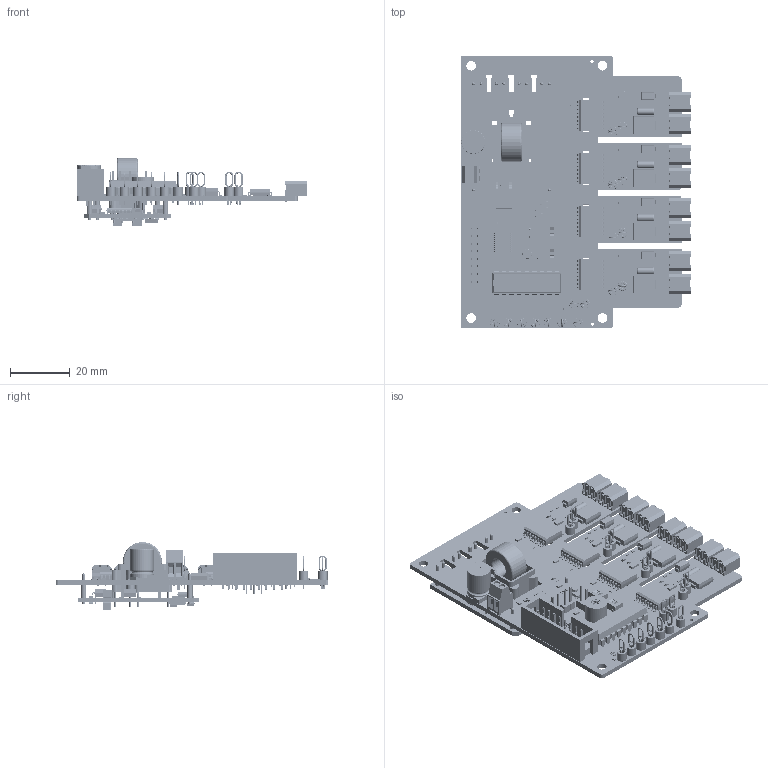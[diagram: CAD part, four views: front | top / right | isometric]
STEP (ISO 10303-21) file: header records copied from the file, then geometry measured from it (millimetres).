
FILE_DESCRIPTION(('for SolidWorks'),'2;1');
FILE_NAME('E:\Google Drive\03 Research & Development Projects\02 Gate Drive Circuit\07 3D Modeling\GDA4SW\STEP\GDA4SW.step', '2015-07-23T15:51:16',('ghayurshah'),(''), 'Open CASCADE STEP processor 6.6','Diptrace','Unknown');
FILE_SCHEMA(('AUTOMOTIVE_DESIGN { 1 0 10303 214 1 1 1 1 }'));
Length unit declared in the file: millimetre
Products named in the file (28): PCB; Board; Model_2; Model_6; Model_11; Model_26; Model_34; Model_36; Model_52; Model_57; Model_62; Model_64; Model_68; Model_70; Model_79; Model_82; Model_117; Model_119; Model_124; Model_127; Model_132; Model_143; Model_145; Model_148; Model_150; Model_155; Model_157; Model_159
Assembly tree (134 placements, depth 2):
  PCB
    Board
    Model_2  x3
    Model_6  x4
    Model_11  x14
    Model_26  x7
    Model_34
    Model_36  x15
    Model_52  x4
    Model_57  x4
    Model_62
    Model_64  x3
    Model_68
    Model_70  x8
    Model_79  x2
    Model_82  x34
    Model_117
    Model_119  x4
    Model_124  x2
    Model_127  x4
    Model_132  x10
    Model_143
    Model_145  x2
    Model_148
    Model_150  x4
    Model_155
    Model_157
    Model_159
Bounding box: 77.25 x 91.44 x 22.73 mm (x, y, z)
Volume: 9362.2 mm3; surface area: 31841.1 mm2
Topology: 1 solids, 391 shells, 14248 faces, 35498 edges, 22194 vertices
Faces by surface type: plane 9111, bspline 2528, cylinder 2073, sphere 298, torus 152, cone 86
Full cylindrical faces by diameter (mm): 0.5 x2, 1.05 x4, 3.2 x4
Entity records: 236383 total; most frequent: CARTESIAN_POINT 63310, ORIENTED_EDGE 28390, DIRECTION 25756, EDGE_CURVE 14226, LINE 10724, VECTOR 10724, VERTEX_POINT 8942, AXIS2_PLACEMENT_3D 7516
